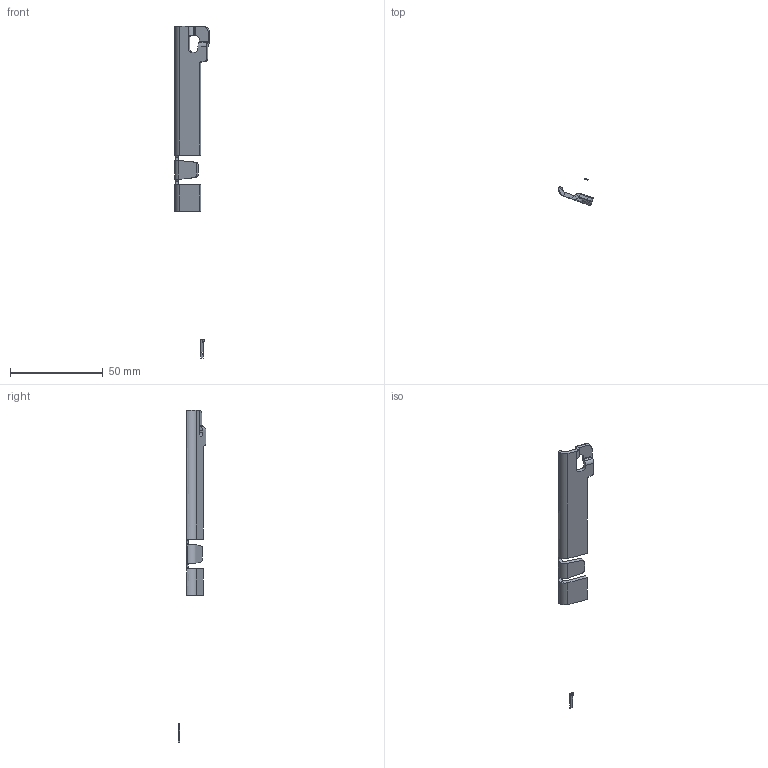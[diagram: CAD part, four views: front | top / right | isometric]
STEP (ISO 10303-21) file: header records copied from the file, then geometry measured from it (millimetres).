
FILE_DESCRIPTION(/* description */ ('Alibre Inc.'),/* implementation_level */ '2;1');
FILE_NAME(/* name */ 'export0',/* time_stamp */ '2009-10-17T10:25:49+02:00',/* author */ (''),/* organization */ (''),/* preprocessor_version */ 'ST-DEVELOPER v10',/* originating_system */ 'Alibre',/* authorisation */ '');
FILE_SCHEMA (('ALIBRE_SCHEMA','CONFIG_CONTROL_DESIGN'));
Length unit declared in the file: millimetre
Products named in the file (6): ID_1
Bounding box: 18.78 x 15.07 x 179.47 mm (x, y, z)
Volume: 3071.5 mm3; surface area: 3756 mm2
Topology: 7 solids, 7 shells, 188 faces, 446 edges, 266 vertices
Faces by surface type: bspline 188
Entity records: 13137 total; most frequent: CARTESIAN_POINT 3820, ORIENTED_EDGE 1792, DIRECTION 1120, EDGE_CURVE 892, VECTOR 611, LINE 608, VERTEX_POINT 532, PERSISTANTTOPOLOGYATTRIBUTE 376
